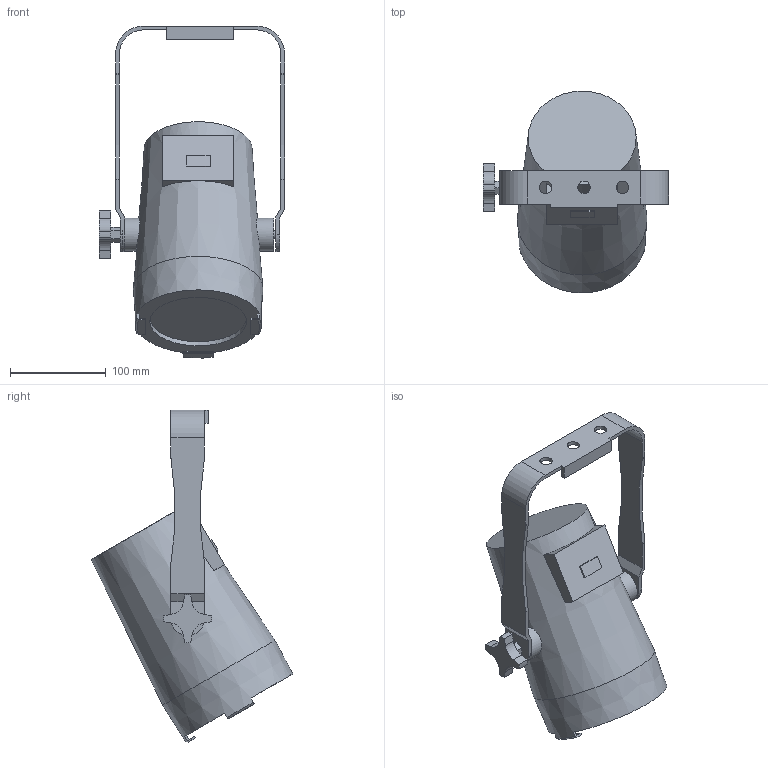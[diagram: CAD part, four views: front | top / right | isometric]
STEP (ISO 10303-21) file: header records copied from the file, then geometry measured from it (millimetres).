
FILE_DESCRIPTION(/* description */ (''),/* implementation_level */ '2;1');
FILE_NAME(/* name */ 'D:/dgooch/Documents/CADENG/PRO/COLORado M Solo/30/3D/COLORADO M SOLO_30.step',/* time_stamp */ '2019-09-11T11:29:38-04:00',/* author */ (''),/* organization */ (''),/* preprocessor_version */ 'ST-DEVELOPER v18',/* originating_system */ 'Autodesk Translation Framework v8.6.0.1094',/* authorisation */ '');
FILE_SCHEMA (('AUTOMOTIVE_DESIGN { 1 0 10303 214 3 1 1 }'));
Length unit declared in the file: millimetre
Products named in the file (3): COLORADO M SOLO; Bracket; Main
Assembly tree (2 placements, depth 2):
  COLORADO M SOLO
    Bracket
    Main
Bounding box: 192.87 x 210.01 x 345.93 mm (x, y, z)
Volume: 2702482.2 mm3; surface area: 175029.4 mm2
Topology: 2 solids, 2 shells, 112 faces, 311 edges, 210 vertices
Faces by surface type: plane 76, cylinder 31, cone 5
Full cylindrical faces by diameter (mm): 8 x2, 8.5 x1, 13 x3, 34.475 x2, 101 x1
Entity records: 3865 total; most frequent: CARTESIAN_POINT 814, DIRECTION 624, ORIENTED_EDGE 622, EDGE_CURVE 311, VERTEX_POINT 210, LINE 208, VECTOR 208, AXIS2_PLACEMENT_3D 208
